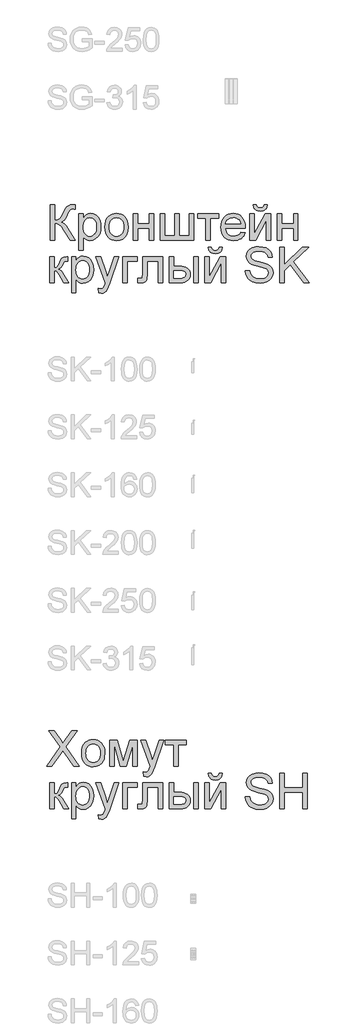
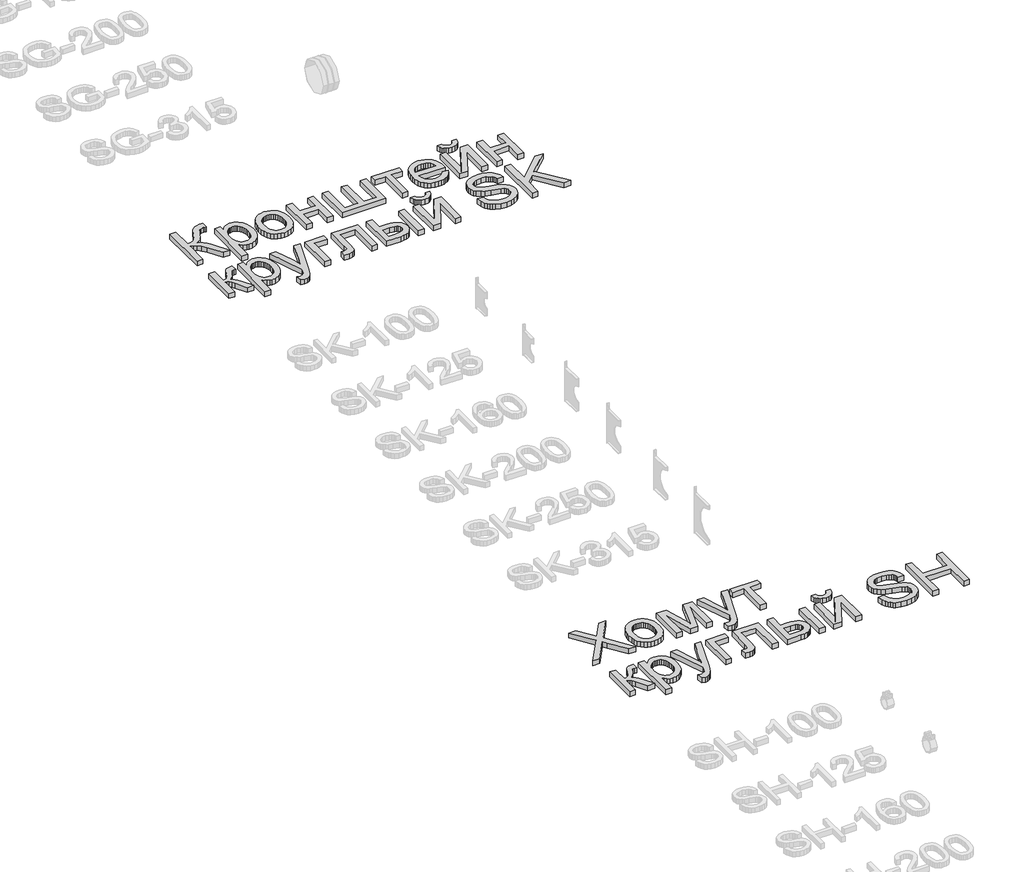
# One storey, part 6 of 31: 2 proxies.
"""IFC4 building model written with IfcOpenShell, lengths in millimetres."""

import ifcopenshell
import ifcopenshell.guid

model = None  # the IFC model being written
_history = None  # IfcOwnerHistory: only IFC2X3 demands one
_inside = {}  # id of a spatial element -> (the spatial element, [elements in it])
_under = {}  # id of a project, library or spatial element -> (it, [spatial elements below it])
_declared = {}  # id of a project -> (the project, [libraries it declares])
_typed = {}  # id of a type object -> (the type object, [elements of that type])
_made_of = {}  # id of a material, layer set ... -> (it, [elements and type objects made of it])


def new_model(schema):
    """Start an empty IFC model of exactly this schema.

    Asked for "IFC4X3", IfcOpenShell would pick the latest addendum, in which some entities
    have other attributes; the version numbers below select the first issue.
    IFC2X3 requires an IfcOwnerHistory on every rooted entity: one is made here for all.
    """
    global model, _history
    if schema == "IFC4X3":
        model = ifcopenshell.file(schema_version=(4, 3, 0, 0))
    else:
        model = ifcopenshell.file(schema=schema)
    _inside.clear()
    _under.clear()
    _declared.clear()
    _typed.clear()
    _made_of.clear()
    _history = None
    if model.schema == "IFC2X3":
        org = make("IfcOrganization", Name="unknown")
        user = make(
            "IfcPersonAndOrganization",
            ThePerson=make("IfcPerson", FamilyName="unknown"),
            TheOrganization=org,
        )
        app = make(
            "IfcApplication",
            ApplicationDeveloper=org,
            Version="unknown",
            ApplicationFullName="unknown",
            ApplicationIdentifier="unknown",
        )
        _history = make(
            "IfcOwnerHistory",
            OwningUser=user,
            OwningApplication=app,
            ChangeAction="ADDED",
            CreationDate=0,
        )
    return model


def make(cls, **values):
    """One entity of the class cls with the attributes given. An attribute that is None is left unset."""
    return model.create_entity(
        cls, **{name: value for name, value in values.items() if value is not None}
    )


def rooted(cls, **values):
    """An entity with a GlobalId (a new one), such as an element, a storey or a relation."""
    return make(cls, GlobalId=ifcopenshell.guid.new(), OwnerHistory=_history, **values)


def si_unit(unit_type, name, prefix=None):
    """IfcSIUnit, for example si_unit("LENGTHUNIT", "METRE", prefix="MILLI")."""
    return make("IfcSIUnit", UnitType=unit_type, Prefix=prefix, Name=name)


def assignment(units):
    """IfcUnitAssignment: the units of a project."""
    return None if units is None else make("IfcUnitAssignment", Units=units)


def point(xyz):
    """IfcCartesianPoint."""
    return None if xyz is None else make("IfcCartesianPoint", Coordinates=xyz)


def direction(xyz):
    """IfcDirection."""
    return None if xyz is None else make("IfcDirection", DirectionRatios=xyz)


def frame(location, z_axis=None, x_axis=None):
    """IfcAxis2Placement3D, a coordinate frame: its origin and axes. An axis left out is left unset."""
    return make(
        "IfcAxis2Placement3D",
        Location=point(location),
        Axis=direction(z_axis),
        RefDirection=direction(x_axis),
    )


def origin():
    """The frame at (0, 0, 0) with its axes left unset."""
    return frame((0.0, 0.0, 0.0))


def origin_with_axes():
    """The frame at (0, 0, 0) with the z axis (0, 0, 1) and the x axis (1, 0, 0) written out."""
    return frame((0.0, 0.0, 0.0), z_axis=(0.0, 0.0, 1.0), x_axis=(1.0, 0.0, 0.0))


def place(relative_to, where):
    """IfcLocalPlacement: puts the frame where relative to a parent placement (None: the world)."""
    return make(
        "IfcLocalPlacement", PlacementRelTo=relative_to, RelativePlacement=where
    )


def context(
    kind, dimensions, precision=None, world=None, true_north=None, identifier=None
):
    """IfcGeometricRepresentationContext, for example the 3D "Model" context."""
    return make(
        "IfcGeometricRepresentationContext",
        ContextIdentifier=identifier,
        ContextType=kind,
        CoordinateSpaceDimension=dimensions,
        Precision=precision,
        WorldCoordinateSystem=world,
        TrueNorth=true_north,
    )


def project(units=None, contexts=None):
    """IfcProject with its units and contexts."""
    return rooted(
        "IfcProject",
        Name="project",
        RepresentationContexts=contexts,
        UnitsInContext=assignment(units),
    )


def spatial(cls, under=None, at=None, **own):
    """A site, building, storey or space (cls), placed at a placement, below another one or the project."""
    s = rooted(cls, ObjectPlacement=at, **own)
    if under is not None:
        _under.setdefault(under.id(), (under, []))[1].append(s)
    return s


def polyline(points):
    """IfcPolyline through the points."""
    return make("IfcPolyline", Points=[point(p) for p in points])


def outline(outer, holes=None, kind="AREA"):
    """IfcArbitraryClosedProfileDef: a profile drawn as a closed curve; with holes, ...WithVoids."""
    if holes is None:
        return make("IfcArbitraryClosedProfileDef", ProfileType=kind, OuterCurve=outer)
    return make(
        "IfcArbitraryProfileDefWithVoids",
        ProfileType=kind,
        OuterCurve=outer,
        InnerCurves=holes,
    )


def extrude(swept, where, along, depth):
    """IfcExtrudedAreaSolid: the profile swept, set in the frame where, extruded along a direction by depth."""
    return make(
        "IfcExtrudedAreaSolid",
        SweptArea=swept,
        Position=where,
        ExtrudedDirection=direction(along),
        Depth=depth,
    )


def shape(context_of_items, identifier, shape_type, items):
    """IfcShapeRepresentation: the items that make up one representation, for example the "Body"."""
    return make(
        "IfcShapeRepresentation",
        ContextOfItems=context_of_items,
        RepresentationIdentifier=identifier,
        RepresentationType=shape_type,
        Items=items,
    )


def made_of(thing, what):
    """Note that an element or type object is made of a material, layer set ...; save() writes the relation."""
    if what is not None:
        _made_of.setdefault(what.id(), (what, []))[1].append(thing)
    return thing


def element(
    cls,
    number,
    at=None,
    inside=None,
    cuts=None,
    type_object=None,
    material=None,
    context=None,
    identifier="Body",
    shape_type=None,
    held_by="IfcProductDefinitionShape",
    body=None,
    shapes=None,
    **own,
):
    """One element of the class cls, such as IfcWall. Its Tag is "e" and its number.

    at: its placement. inside: the storey or other place that contains it. cuts: it is an
    opening in that element (IfcRelVoidsElement). A single representation is given by context,
    identifier, shape_type and body (its items); several are given by shapes. held_by: the class
    of the entity that holds the representations. save() writes the other relations.
    """
    e = rooted(cls, Tag="e%d" % number, ObjectPlacement=at, **own)
    if body is not None:
        shapes = [shape(context, identifier, shape_type, body)]
    if shapes is not None:
        e.Representation = make(held_by, Representations=shapes)
    if inside is not None:
        _inside.setdefault(inside.id(), (inside, []))[1].append(e)
    if cuts is not None:
        rooted(
            "IfcRelVoidsElement", RelatingBuildingElement=cuts, RelatedOpeningElement=e
        )
    if type_object is not None:
        _typed.setdefault(type_object.id(), (type_object, []))[1].append(e)
    return made_of(e, material)


def aggregate(whole, parts):
    """IfcRelAggregates: a whole, such as a stair, and the parts it consists of."""
    return rooted("IfcRelAggregates", RelatingObject=whole, RelatedObjects=parts)


def save(model, path):
    """Write the relations noted so far, then the file.

    IfcRelAggregates (storeys below a building ...), IfcRelContainedInSpatialStructure (elements
    in a storey), IfcRelDefinesByType, IfcRelAssociatesMaterial and IfcRelDeclares: one each for
    every whole, place, type object, material and project.
    """
    for whole, parts in _under.values():
        aggregate(whole, parts)
    for where, things in _inside.values():
        rooted(
            "IfcRelContainedInSpatialStructure",
            RelatedElements=things,
            RelatingStructure=where,
        )
    for kind, things in _typed.values():
        rooted("IfcRelDefinesByType", RelatedObjects=things, RelatingType=kind)
    for what, things in _made_of.values():
        rooted("IfcRelAssociatesMaterial", RelatedObjects=things, RelatingMaterial=what)
    for by, libraries in _declared.values():
        rooted("IfcRelDeclares", RelatingContext=by, RelatedDefinitions=libraries)
    model.write(path)


model = new_model("IFC4")

# Units and contexts
model_context = context("Model", 3, world=origin())
ifc_project = project(units=[si_unit("LENGTHUNIT", "METRE", prefix="MILLI")], contexts=[model_context])

# Site, building, storey
site = spatial("IfcSite", under=ifc_project)
building = spatial("IfcBuilding", under=site)
storey = spatial("IfcBuildingStorey", under=building, Name="Этаж 01", Elevation=0.0)

# Proxies
placement = place(None, origin())
element("IfcBuildingElementProxy", 1, Name="450 мм Arial", ObjectType="450 мм Arial", at=placement, inside=storey, context=model_context, shape_type="SweptSolid", body=[
    extrude(outline(polyline([(10419.0852891, -36273.162397), (10475.292307, -36273.162397), (10475.292307, -36469.8869595), (10513.3445678, -36466.1681847), (10538.1409744, -36455.0118601), (10558.1894249, -36428.7608774), (10581.9978174, -36379.7581282), (10613.0104787, -36316.9094607), (10627.9679126, -36299.8799419), (10648.1398648, -36285.7870202), (10672.0854815, -36276.3185528), (10698.3639091, -36273.162397), (10735.2497645, -36273.821073), (10735.2497645, -36330.0280909), (10722.8447001, -36329.6987529), (10710.4396356, -36329.3694149), (10684.6963823, -36332.7451294), (10666.5279029, -36342.8722727), (10650.8843481, -36364.1420182), (10633.154986, -36400.7259805), (10611.4049559, -36446.2844032), (10593.3599783, -36471.2043115), (10575.5620041, -36484.3229417), (10554.5529845, -36494.4775298), (10576.3235982, -36503.740161), (10597.9432654, -36519.8914451), (10619.4119859, -36542.9313824), (10640.7297599, -36572.8599727), (10735.2497645, -36722.8185399), (10670.0408415, -36722.8185399), (10590.121488, -36596.133191), (10559.2597733, -36555.5011159), (10533.8595805, -36529.9911437), (10507.8830461, -36516.5294531), (10475.292307, -36512.0422229), (10475.292307, -36722.8185399), (10419.0852891, -36722.8185399), (10419.0852891, -36273.162397)])), origin_with_axes(), (0.0, 0.0, 1.0), 50.0),
    extrude(outline(polyline([(10777.4050279, -36849.28433), (10777.4050279, -36392.60231), (10833.6120458, -36392.60231), (10833.6120458, -36447.7115345), (10851.9451942, -36420.5274275), (10872.4739292, -36401.1102082), (10896.4058235, -36389.4598766), (10924.9484498, -36385.5764328), (10962.9595434, -36391.0105097), (10996.1952361, -36407.3127404), (11023.2558414, -36433.4951111), (11042.7416728, -36468.5696076), (11054.5155061, -36509.9838605), (11058.4401172, -36555.1855003), (11054.0077767, -36603.2551252), (11040.7107551, -36646.247456), (11018.9744474, -36681.9806285), (10989.2242485, -36708.2727784), (10954.575147, -36724.4515074), (10918.1421312, -36729.8444171), (10892.302821, -36726.2354216), (10869.2354389, -36715.408435), (10849.4888816, -36699.065037), (10833.6120458, -36678.9068072), (10833.6120458, -36849.28433), (10777.4050279, -36849.28433)]), holes=[polyline([(10833.6120458, -36560.3451289), (10835.1318034, -36587.433179), (10839.6910763, -36610.7338422), (10847.2898644, -36630.2471184), (10857.9281678, -36645.9730076), (10870.7346129, -36658.076179), (10884.8378265, -36666.7213013), (10900.2378083, -36671.9083748), (10916.9345586, -36673.6373992), (10933.8714511, -36671.8466239), (10949.5527425, -36666.4742979), (10963.9784328, -36657.5204211), (10977.148522, -36644.9849937), (10988.1230246, -36628.6896241), (10995.961955, -36608.455921), (11000.6653133, -36584.2838844), (11002.2330993, -36556.1735143), (11000.7030499, -36529.3187453), (10996.1129016, -36506.0592493), (10988.4626544, -36486.3950265), (10977.7523084, -36470.3260769), (10964.9149878, -36457.8386779), (10950.8838169, -36448.9191072), (10935.6587959, -36443.5673647), (10919.2399245, -36441.7834506), (10902.8725123, -36443.6805747), (10887.4725304, -36449.3719469), (10873.0399789, -36458.8575673), (10859.5748577, -36472.1374358), (10848.2161275, -36489.0331611), (10840.1027488, -36509.3663517), (10835.2347215, -36533.1370076), (10833.6120458, -36560.3451289)])]), origin_with_axes(), (0.0, 0.0, 1.0), 50.0),
    extrude(outline(polyline([(11107.6212578, -36557.7104249), (11110.6607731, -36514.944514), (11119.7793188, -36478.0929646), (11134.976895, -36447.1557767), (11156.2535018, -36422.1329502), (11177.6741939, -36406.1394738), (11201.3179175, -36394.7155621), (11227.1846725, -36387.8612151), (11255.274459, -36385.5764328), (11286.2836896, -36388.3586527), (11314.3220171, -36396.7053125), (11339.3894414, -36410.6164122), (11361.4859625, -36430.0919518), (11379.5206483, -36454.4732552), (11392.4025668, -36483.1016466), (11400.1317179, -36515.9771258), (11402.7081015, -36553.099693), (11398.1522593, -36609.8830523), (11392.4574564, -36633.1905767), (11384.4847325, -36653.1086642), (11362.1034712, -36685.4798447), (11331.4064256, -36709.6999097), (11294.945965, -36724.8082903), (11255.274459, -36729.8444171), (11223.8123887, -36727.072489), (11195.5133353, -36718.7567046), (11170.3772989, -36704.897064), (11148.4042796, -36685.4935671), (11130.5617075, -36660.8755519), (11117.8170133, -36631.3723565), (11110.1701967, -36596.9839809), (11107.6212578, -36557.7104249)]), holes=[polyline([(11163.8282757, -36557.6006456), (11165.454382, -36584.8636565), (11170.3327011, -36608.4696434), (11178.4632328, -36628.4186064), (11189.8459773, -36644.7105453), (11203.6918955, -36657.3660439), (11219.2119485, -36666.4056858), (11236.4061364, -36671.8294709), (11255.274459, -36673.6373992), (11274.0467247, -36671.8191791), (11291.1723005, -36666.3645185), (11306.6511863, -36657.2734176), (11320.4833821, -36644.5458763), (11331.8661265, -36628.092699), (11339.9966583, -36607.8246899), (11344.8749773, -36583.741849), (11346.5010837, -36555.8441763), (11344.8646855, -36529.4456776), (11339.955491, -36506.4571994), (11331.7735002, -36486.8787417), (11320.3187131, -36470.7103045), (11306.4350582, -36458.0548059), (11290.9664642, -36449.0151641), (11273.9129312, -36443.591379), (11255.274459, -36441.7834506), (11236.4061364, -36443.5845178), (11219.2119485, -36448.9877193), (11203.6918955, -36457.9930551), (11189.8459773, -36470.6005252), (11178.4632328, -36486.8444357), (11170.3327011, -36506.7590926), (11165.454382, -36530.3444959), (11163.8282757, -36557.6006456)])]), origin_with_axes(), (0.0, 0.0, 1.0), 50.0),
    extrude(outline(polyline([(11465.9409966, -36392.60231), (11522.1480145, -36392.60231), (11522.1480145, -36519.0681002), (11669.6914363, -36519.0681002), (11669.6914363, -36392.60231), (11725.8984542, -36392.60231), (11725.8984542, -36722.8185399), (11669.6914363, -36722.8185399), (11669.6914363, -36575.275118), (11522.1480145, -36575.275118), (11522.1480145, -36722.8185399), (11465.9409966, -36722.8185399), (11465.9409966, -36392.60231)])), origin_with_axes(), (0.0, 0.0, 1.0), 50.0),
    extrude(outline(polyline([(11810.208981, -36392.60231), (11866.4159988, -36392.60231), (11866.4159988, -36666.611522), (11992.881789, -36666.611522), (11992.881789, -36392.60231), (12049.0888068, -36392.60231), (12049.0888068, -36666.611522), (12175.554597, -36666.611522), (12175.554597, -36392.60231), (12231.7616149, -36392.60231), (12231.7616149, -36722.8185399), (11810.208981, -36722.8185399), (11810.208981, -36392.60231)])), origin_with_axes(), (0.0, 0.0, 1.0), 50.0),
    extrude(outline(polyline([(12280.9427555, -36392.60231), (12547.9260903, -36392.60231), (12547.9260903, -36448.8093278), (12442.5379318, -36448.8093278), (12442.5379318, -36722.8185399), (12386.330914, -36722.8185399), (12386.330914, -36448.8093278), (12280.9427555, -36448.8093278), (12280.9427555, -36392.60231)])), origin_with_axes(), (0.0, 0.0, 1.0), 50.0),
    extrude(outline(polyline([(12828.3025036, -36624.4562586), (12883.4117281, -36631.4821359), (12874.9621501, -36653.5546427), (12863.5553915, -36673.0061681), (12849.191452, -36689.8367119), (12831.8703318, -36704.0462741), (12811.7704223, -36715.3329617), (12789.0701149, -36723.3948814), (12763.7694095, -36728.2320332), (12735.8683062, -36729.8444171), (12700.9927848, -36727.0621972), (12669.9183727, -36718.7155373), (12642.64507, -36704.8044376), (12619.1728766, -36685.3288981), (12600.2976927, -36660.8309541), (12586.8154186, -36631.8526411), (12578.726054, -36598.3939591), (12576.0295992, -36560.4549082), (12578.7534989, -36521.2293807), (12586.9251979, -36486.6557525), (12600.5446962, -36456.7340233), (12619.6119939, -36431.4641934), (12643.0224364, -36411.3882981), (12669.6713692, -36397.0483729), (12699.5587923, -36388.4444178), (12732.6847056, -36385.5764328), (12764.7437011, -36388.4375566), (12793.7357365, -36397.0209281), (12819.6608118, -36411.3265473), (12842.518927, -36431.3544141), (12861.1779828, -36456.5693544), (12874.5058798, -36486.4361938), (12882.502618, -36520.9549324), (12885.1681974, -36560.1255702), (12884.8388594, -36575.275118), (12632.2366171, -36575.275118), (12635.4922604, -36597.7044077), (12641.9658103, -36617.3480469), (12651.657267, -36634.2060355), (12664.5666303, -36648.2783736), (12679.9803346, -36659.3729473), (12697.1848142, -36667.2976428), (12716.1800692, -36672.0524601), (12736.9660995, -36673.6373992), (12766.8809674, -36670.7008021), (12792.0753241, -36661.8910108), (12812.5491694, -36646.6591285), (12828.3025036, -36624.4562586)]), holes=[polyline([(12632.2366171, -36519.0681002), (12828.9611795, -36519.0681002), (12821.3589608, -36489.3727909), (12806.4564165, -36468.1304902), (12791.1284773, -36456.6036604), (12773.687286, -36448.3702105), (12754.1328425, -36443.4301406), (12732.4651469, -36441.7834506), (12694.5775551, -36447.0391361), (12663.2492783, -36462.8061926), (12650.7927547, -36474.2060901), (12641.4718033, -36487.3830405), (12635.2864241, -36502.3370439), (12632.2366171, -36519.0681002)])]), origin_with_axes(), (0.0, 0.0, 1.0), 50.0),
    extrude(outline(polyline([(13124.0480233, -36273.162397), (13166.2032867, -36273.162397), (13157.1327694, -36309.1562954), (13149.1703372, -36323.6025694), (13138.9231227, -36335.6817265), (13126.5969621, -36345.2153753), (13112.3976917, -36352.0251245), (13078.3798213, -36357.4729238), (13041.466521, -36352.0662917), (13026.1179981, -36345.3080016), (13012.8415602, -36335.8463955), (13001.829321, -36323.8186974), (12993.2733943, -36309.3621317), (12983.5304786, -36273.162397), (13025.685742, -36273.162397), (13031.6138259, -36291.6739369), (13041.4939658, -36304.8337343), (13055.3810513, -36312.6966789), (13073.329972, -36315.3176604), (13093.5842587, -36312.7790134), (13108.2397995, -36305.1630723), (13118.1199394, -36292.0856094), (13124.0480233, -36273.162397)])), origin_with_axes(), (0.0, 0.0, 1.0), 50.0),
    extrude(outline(polyline([(12941.3752152, -36392.60231), (12997.5822331, -36392.60231), (12997.5822331, -36644.436097), (13135.6846324, -36392.60231), (13208.35855, -36392.60231), (13208.35855, -36722.8185399), (13152.1515322, -36722.8185399), (13152.1515322, -36472.5216635), (13014.9273675, -36722.8185399), (12941.3752152, -36722.8185399), (12941.3752152, -36392.60231)])), origin_with_axes(), (0.0, 0.0, 1.0), 50.0),
    extrude(outline(polyline([(13292.6690768, -36392.60231), (13348.8760947, -36392.60231), (13348.8760947, -36519.0681002), (13496.4195165, -36519.0681002), (13496.4195165, -36392.60231), (13552.6265344, -36392.60231), (13552.6265344, -36722.8185399), (13496.4195165, -36722.8185399), (13496.4195165, -36575.275118), (13348.8760947, -36575.275118), (13348.8760947, -36722.8185399), (13292.6690768, -36722.8185399), (13292.6690768, -36392.60231)])), origin_with_axes(), (0.0, 0.0, 1.0), 50.0),
    extrude(outline(polyline([(10412.0594119, -36933.0343932), (10468.2664298, -36933.0343932), (10468.2664298, -37073.5519378), (10491.1279756, -37071.0270132), (10505.9207405, -37063.4522393), (10519.0119258, -37043.6919596), (10536.7687328, -37004.6105175), (10551.0812131, -36972.6510095), (10562.4022067, -36953.8375765), (10572.9684674, -36943.5869314), (10585.0167491, -36937.3157871), (10626.1291088, -36933.0343932), (10636.8874833, -36933.0343932), (10636.8874833, -36989.570749), (10621.7379355, -36989.241411), (10604.1732424, -36990.723432), (10594.2931026, -36995.1694949), (10574.9719402, -37032.1651297), (10563.10205, -37056.8243121), (10552.3025082, -37072.1796961), (10539.2250453, -37082.4303412), (10520.5213917, -37091.7753069), (10538.3330882, -37099.68628), (10555.9801158, -37113.6488387), (10573.4624744, -37133.6629831), (10590.780164, -37159.7287132), (10650.9392378, -37263.250623), (10587.0476667, -37263.250623), (10528.0961656, -37161.9242998), (10512.1781624, -37134.9597515), (10498.455746, -37119.0554708), (10484.5961053, -37111.2748607), (10468.2664298, -37108.681324), (10468.2664298, -37263.250623), (10412.0594119, -37263.250623), (10412.0594119, -36933.0343932)])), origin_with_axes(), (0.0, 0.0, 1.0), 50.0),
    extrude(outline(polyline([(10686.0686239, -37389.7164132), (10686.0686239, -36933.0343932), (10742.2756418, -36933.0343932), (10742.2756418, -36988.1436177), (10760.6087902, -36960.9595107), (10781.1375252, -36941.5422914), (10805.0694195, -36929.8919598), (10833.6120458, -36926.0085159), (10871.6231394, -36931.4425929), (10904.8588321, -36947.7448236), (10931.9194374, -36973.9271942), (10951.4052687, -37009.0016907), (10963.1791021, -37050.4159436), (10967.1037132, -37095.6175835), (10962.6713727, -37143.6872084), (10949.3743511, -37186.6795392), (10927.6380434, -37222.4127116), (10897.8878445, -37248.7048616), (10863.2387429, -37264.8835906), (10826.8057272, -37270.2765003), (10800.966417, -37266.6675047), (10777.8990349, -37255.8405182), (10758.1524776, -37239.4971201), (10742.2756418, -37219.3388903), (10742.2756418, -37389.7164132), (10686.0686239, -37389.7164132)]), holes=[polyline([(10742.2756418, -37100.7772121), (10743.7953994, -37127.8652622), (10748.3546723, -37151.1659253), (10755.9534604, -37170.6792016), (10766.5917638, -37186.4050908), (10779.3982089, -37198.5082622), (10793.5014225, -37207.1533845), (10808.9014043, -37212.3404579), (10825.5981546, -37214.0694824), (10842.5350471, -37212.2787071), (10858.2163385, -37206.906381), (10872.6420288, -37197.9525043), (10885.812118, -37185.4170768), (10896.7866206, -37169.1217073), (10904.625551, -37148.8880042), (10909.3289093, -37124.7159676), (10910.8966953, -37096.6055975), (10909.3666459, -37069.7508284), (10904.7764976, -37046.4913325), (10897.1262504, -37026.8271097), (10886.4159044, -37010.75816), (10873.5785838, -36998.2707611), (10859.5474129, -36989.3511903), (10844.3223918, -36983.9994479), (10827.9035205, -36982.2155338), (10811.5361083, -36984.1126579), (10796.1361264, -36989.8040301), (10781.7035749, -36999.2896505), (10768.2384537, -37012.569519), (10756.8797235, -37029.4652443), (10748.7663448, -37049.7984349), (10743.8983175, -37073.5690908), (10742.2756418, -37100.7772121)])]), origin_with_axes(), (0.0, 0.0, 1.0), 50.0),
    extrude(outline(polyline([(11030.3366083, -37389.7164132), (11023.310731, -37335.5952027), (11051.8533573, -37340.5352726), (11066.8656809, -37338.9846395), (11078.5297349, -37334.3327403), (11094.8868553, -37317.0424956), (11110.2559618, -37275.6556875), (11114.6471351, -37262.0430504), (10995.2072221, -36933.0343932), (11054.4880613, -36933.0343932), (11117.8307357, -37116.3658772), (11139.8963814, -37189.6984708), (11161.962027, -37124.928665), (11227.0611708, -36933.0343932), (11285.9028926, -36933.0343932), (11170.9639322, -37271.1547349), (11141.103954, -37344.4873285), (11125.8171821, -37367.897771), (11108.4994925, -37384.1176673), (11088.3824299, -37393.5861347), (11064.6975391, -37396.7422904), (11030.3366083, -37389.7164132)])), origin_with_axes(), (0.0, 0.0, 1.0), 50.0),
    extrude(outline(polyline([(11332.4493292, -36933.0343932), (11515.1221372, -36933.0343932), (11515.1221372, -36989.241411), (11388.6563471, -36989.241411), (11388.6563471, -37263.250623), (11332.4493292, -37263.250623), (11332.4493292, -36933.0343932)])), origin_with_axes(), (0.0, 0.0, 1.0), 50.0),
    extrude(outline(polyline([(11585.3809096, -36933.0343932), (11838.3124899, -36933.0343932), (11838.3124899, -37262.9212851), (11782.105472, -37262.9212851), (11782.105472, -36989.241411), (11641.5879274, -36989.241411), (11641.5879274, -37146.7747521), (11637.8005405, -37219.4486697), (11630.7060512, -37235.901847), (11616.9973571, -37250.1319929), (11596.1941737, -37259.9709655), (11567.8162165, -37263.250623), (11522.1480145, -37260.3963604), (11522.1480145, -37207.0436052), (11547.2874814, -37207.0436052), (11572.7013967, -37203.5855562), (11579.0548756, -37199.1120485), (11582.8559849, -37192.6076231), (11585.3809096, -37143.5911514), (11585.3809096, -36933.0343932)])), origin_with_axes(), (0.0, 0.0, 1.0), 50.0),
    extrude(outline(polyline([(12231.7616149, -36933.0343932), (12287.9686327, -36933.0343932), (12287.9686327, -37263.250623), (12231.7616149, -37263.250623), (12231.7616149, -36933.0343932)])), origin_with_axes(), (0.0, 0.0, 1.0), 50.0),
    extrude(outline(polyline([(11922.6230167, -36933.0343932), (11978.8300345, -36933.0343932), (11978.8300345, -37052.4743061), (12048.3203515, -37052.4743061), (12080.2970125, -37054.234206), (12108.3833684, -37059.5139057), (12132.5794192, -37068.3134053), (12152.885165, -37080.6327047), (12168.9506841, -37096.046409), (12180.4260549, -37114.1291233), (12187.3112773, -37134.8808476), (12189.6063515, -37158.3015819), (12187.6817826, -37179.1973916), (12181.9080758, -37198.5219846), (12172.2852313, -37216.2753609), (12158.8132489, -37232.4575205), (12141.1147623, -37245.9295029), (12118.8124049, -37255.5523474), (12091.9061768, -37261.3260541), (12060.396078, -37263.250623), (11922.6230167, -37263.250623), (11922.6230167, -36933.0343932)]), holes=[polyline([(11978.8300345, -37207.0436052), (12036.573963, -37207.0436052), (12081.3364855, -37204.0932857), (12111.1141293, -37195.242327), (12127.8280325, -37180.1339465), (12133.3993336, -37158.4113612), (12129.2688863, -37140.050768), (12116.8775442, -37123.8308717), (12106.1226003, -37117.2029446), (12090.379558, -37112.4687109), (12043.9291783, -37108.681324), (11978.8300345, -37108.681324), (11978.8300345, -37207.0436052)])]), origin_with_axes(), (0.0, 0.0, 1.0), 50.0),
    extrude(outline(polyline([(12554.9519675, -36813.5944802), (12597.1072309, -36813.5944802), (12588.0367136, -36849.5883786), (12580.0742815, -36864.0346526), (12569.827067, -36876.1138097), (12557.5009064, -36885.6474585), (12543.3016359, -36892.4572077), (12509.2837655, -36897.905007), (12472.3704652, -36892.4983749), (12457.0219424, -36885.7400848), (12443.7455045, -36876.2784787), (12432.7332652, -36864.2507806), (12424.1773386, -36849.7942149), (12414.4344229, -36813.5944802), (12456.5896863, -36813.5944802), (12462.5177702, -36832.10602), (12472.39791, -36845.2658174), (12486.2849955, -36853.1287621), (12504.2339162, -36855.7497436), (12524.488203, -36853.2110966), (12539.1437437, -36845.5951554), (12549.0238836, -36832.5176925), (12554.9519675, -36813.5944802)])), origin_with_axes(), (0.0, 0.0, 1.0), 50.0),
    extrude(outline(polyline([(12372.2791595, -36933.0343932), (12428.4861773, -36933.0343932), (12428.4861773, -37184.8681802), (12566.5885767, -36933.0343932), (12639.2624943, -36933.0343932), (12639.2624943, -37263.250623), (12583.0554764, -37263.250623), (12583.0554764, -37012.9537467), (12445.8313118, -37263.250623), (12372.2791595, -37263.250623), (12372.2791595, -36933.0343932)])), origin_with_axes(), (0.0, 0.0, 1.0), 50.0),
    extrude(outline(polyline([(12885.1681974, -37108.681324), (12941.3752152, -37108.681324), (12947.824751, -37139.8723766), (12959.488805, -37164.9432315), (12977.6847292, -37184.8407353), (13003.7298757, -37200.511735), (13035.5658819, -37210.6800456), (13071.1343854, -37214.0694824), (13102.4489397, -37211.5033905), (13129.8663278, -37203.8051149), (13152.0829201, -37191.6196091), (13167.795087, -37175.5918266), (13177.1400526, -37157.1900662), (13180.2550411, -37137.8826262), (13177.9222303, -37119.0691932), (13170.9237979, -37102.8081297), (13156.7073745, -37088.9347667), (13132.7205905, -37077.2844351), (13050.8800987, -37055.8225757), (12997.1568382, -37041.6198747), (12962.7821849, -37028.1032945), (12934.8021778, -37009.1938046), (12914.973286, -36986.2773691), (12903.1582854, -36959.8479949), (12899.2199519, -36930.3996892), (12904.0914097, -36897.4796121), (12918.7057832, -36866.7825665), (12942.6788448, -36840.7648648), (12975.6263668, -36821.8828198), (13015.174371, -36810.3971572), (13058.9488795, -36806.568603), (13106.3735509, -36810.5755486), (13147.8701383, -36822.5963854), (13181.9566208, -36842.38411), (13207.1509774, -36869.6917187), (13223.0964253, -36902.8176321), (13229.4361817, -36940.0602704), (13173.2291639, -36940.0602704), (13169.4692218, -36922.1250721), (13162.9099067, -36906.5226845), (13153.5512187, -36893.2531078), (13141.3931577, -36882.3163419), (13126.2093039, -36873.7672764), (13107.7732373, -36867.6608011), (13061.1444662, -36862.7756208), (13013.4179017, -36867.6059114), (12995.173949, -36873.6437747), (12980.676216, -36882.0967832), (12961.7392813, -36903.4214184), (12957.0050476, -36915.5863406), (12955.4269697, -36928.7529992), (12959.9004775, -36950.3520827), (12973.3210008, -36967.724662), (13005.0472277, -36983.2584374), (13065.0965221, -36999.1215509), (13127.0669549, -37014.1887642), (13164.5565967, -37027.3348391), (13196.5984391, -37047.72635), (13218.9522556, -37072.8932618), (13232.0846081, -37102.5611262), (13236.462059, -37136.4554949), (13231.4259321, -37171.1045965), (13216.3175516, -37203.6953356), (13191.7544261, -37231.7439548), (13158.3540644, -37252.7666969), (13118.1885514, -37265.8990494), (13073.329972, -37270.2765003), (13018.2619147, -37265.555989), (12972.9367731, -37251.3944552), (12953.7974328, -37240.7595825), (12936.8330954, -37227.7370092), (12922.043761, -37212.3267355), (12909.4294297, -37194.5287614), (12891.8372918, -37154.0750776), (12885.1681974, -37108.681324)])), origin_with_axes(), (0.0, 0.0, 1.0), 50.0),
    extrude(outline(polyline([(13320.7725857, -37263.250623), (13320.7725857, -36813.5944802), (13376.9796036, -36813.5944802), (13376.9796036, -37033.7020404), (13607.5162003, -36813.5944802), (13686.1182018, -36813.5944802), (13492.5772399, -36998.4628749), (13693.144079, -37263.250623), (13624.4222173, -37263.250623), (13452.7273425, -37036.4465237), (13376.9796036, -37108.681324), (13376.9796036, -37263.250623), (13320.7725857, -37263.250623)])), origin_with_axes(), (0.0, 0.0, 1.0), 50.0),
])
element("IfcBuildingElementProxy", 2, Name="450 мм Arial", ObjectType="450 мм Arial", at=placement, inside=storey, context=model_context, shape_type="SweptSolid", body=[
    extrude(outline(polyline([(10369.9041485, -43382.8185399), (10543.2457133, -43137.7910714), (10398.0076574, -42933.162397), (10465.4121671, -42933.162397), (10547.1977693, -43048.320916), (10574.7523815, -43093.2206627), (10607.0275051, -43047.5524607), (10687.9348726, -42933.162397), (10756.3273962, -42933.162397), (10611.0893403, -43138.4497474), (10784.4309052, -43382.8185399), (10717.0263955, -43382.8185399), (10601.5385385, -43219.9060116), (10577.4968648, -43186.0939774), (10551.0400459, -43223.1993915), (10438.2966722, -43382.8185399), (10369.9041485, -43382.8185399)])), origin_with_axes(), (0.0, 0.0, 1.0), 50.0),
    extrude(outline(polyline([(10812.5344141, -43217.7104249), (10815.5739293, -43174.944514), (10824.6924751, -43138.0929646), (10839.8900513, -43107.1557767), (10861.1666581, -43082.1329502), (10882.5873502, -43066.1394738), (10906.2310737, -43054.7155621), (10932.0978288, -43047.8612151), (10960.1876153, -43045.5764328), (10991.1968459, -43048.3586527), (11019.2351734, -43056.7053125), (11044.3025976, -43070.6164122), (11066.3991188, -43090.0919518), (11084.4338046, -43114.4732552), (11097.3157231, -43143.1016466), (11105.0448741, -43175.9771258), (11107.6212578, -43213.099693), (11103.0654156, -43269.8830523), (11097.3706127, -43293.1905767), (11089.3978888, -43313.1086642), (11067.0166275, -43345.4798447), (11036.3195819, -43369.6999097), (10999.8591213, -43384.8082903), (10960.1876153, -43389.8444171), (10928.7255449, -43387.072489), (10900.4264916, -43378.7567046), (10875.2904552, -43364.897064), (10853.3174358, -43345.4935671), (10835.4748638, -43320.8755519), (10822.7301695, -43291.3723565), (10815.083353, -43256.9839809), (10812.5344141, -43217.7104249)]), holes=[polyline([(10868.7414319, -43217.6006456), (10870.3675383, -43244.8636565), (10875.2458574, -43268.4696434), (10883.3763891, -43288.4186064), (10894.7591336, -43304.7105453), (10908.6050518, -43317.3660439), (10924.1251048, -43326.4056858), (10941.3192926, -43331.8294709), (10960.1876153, -43333.6373992), (10978.959881, -43331.8191791), (10996.0854568, -43326.3645185), (11011.5643425, -43317.2734176), (11025.3965383, -43304.5458763), (11036.7792828, -43288.092699), (11044.9098146, -43267.8246899), (11049.7881336, -43243.741849), (11051.41424, -43215.8441763), (11049.7778418, -43189.4456776), (11044.8686473, -43166.4571994), (11036.6866565, -43146.8787417), (11025.2318693, -43130.7103045), (11011.3482145, -43118.0548059), (10995.8796205, -43109.0151641), (10978.8260875, -43103.591379), (10960.1876153, -43101.7834506), (10941.3192926, -43103.5845178), (10924.1251048, -43108.9877193), (10908.6050518, -43117.9930551), (10894.7591336, -43130.6005252), (10883.3763891, -43146.8444357), (10875.2458574, -43166.7590926), (10870.3675383, -43190.3444959), (10868.7414319, -43217.6006456)])]), origin_with_axes(), (0.0, 0.0, 1.0), 50.0),
    extrude(outline(polyline([(11170.8541529, -43052.60231), (11267.5697442, -43052.60231), (11342.1099104, -43316.9509408), (11422.4683813, -43052.60231), (11515.1221372, -43052.60231), (11515.1221372, -43382.8185399), (11458.9151194, -43382.8185399), (11458.9151194, -43116.9329984), (11378.1175312, -43382.8185399), (11304.3458203, -43382.8185399), (11227.0611708, -43104.1985959), (11227.0611708, -43382.8185399), (11170.8541529, -43382.8185399), (11170.8541529, -43052.60231)])), origin_with_axes(), (0.0, 0.0, 1.0), 50.0),
    extrude(outline(polyline([(11599.432664, -43509.28433), (11592.4067868, -43455.1631195), (11620.949413, -43460.1031894), (11635.9617367, -43458.5525564), (11647.6257907, -43453.9006572), (11663.9829111, -43436.6104124), (11679.3520175, -43395.2236044), (11683.7431908, -43381.6109672), (11564.3032779, -43052.60231), (11623.584117, -43052.60231), (11686.9267914, -43235.933794), (11708.9924371, -43309.2663876), (11731.0580828, -43244.4965819), (11796.1572265, -43052.60231), (11854.9989483, -43052.60231), (11740.059988, -43390.7226518), (11710.2000098, -43464.0552454), (11694.9132378, -43487.4656879), (11677.5955482, -43503.6855841), (11657.4784857, -43513.1540515), (11633.7935949, -43516.3102073), (11599.432664, -43509.28433)])), origin_with_axes(), (0.0, 0.0, 1.0), 50.0),
    extrude(outline(polyline([(11873.4418761, -43052.60231), (12140.4252109, -43052.60231), (12140.4252109, -43108.8093278), (12035.0370524, -43108.8093278), (12035.0370524, -43382.8185399), (11978.8300345, -43382.8185399), (11978.8300345, -43108.8093278), (11873.4418761, -43108.8093278), (11873.4418761, -43052.60231)])), origin_with_axes(), (0.0, 0.0, 1.0), 50.0),
    extrude(outline(polyline([(10412.0594119, -43593.0343932), (10468.2664298, -43593.0343932), (10468.2664298, -43733.5519378), (10491.1279756, -43731.0270132), (10505.9207405, -43723.4522393), (10519.0119258, -43703.6919596), (10536.7687328, -43664.6105175), (10551.0812131, -43632.6510095), (10562.4022067, -43613.8375765), (10572.9684674, -43603.5869314), (10585.0167491, -43597.3157871), (10626.1291088, -43593.0343932), (10636.8874833, -43593.0343932), (10636.8874833, -43649.570749), (10621.7379355, -43649.241411), (10604.1732424, -43650.723432), (10594.2931026, -43655.1694949), (10574.9719402, -43692.1651297), (10563.10205, -43716.8243121), (10552.3025082, -43732.1796961), (10539.2250453, -43742.4303412), (10520.5213917, -43751.7753069), (10538.3330882, -43759.68628), (10555.9801158, -43773.6488387), (10573.4624744, -43793.6629831), (10590.780164, -43819.7287132), (10650.9392378, -43923.250623), (10587.0476667, -43923.250623), (10528.0961656, -43821.9242998), (10512.1781624, -43794.9597515), (10498.455746, -43779.0554708), (10484.5961053, -43771.2748607), (10468.2664298, -43768.681324), (10468.2664298, -43923.250623), (10412.0594119, -43923.250623), (10412.0594119, -43593.0343932)])), origin_with_axes(), (0.0, 0.0, 1.0), 50.0),
    extrude(outline(polyline([(10686.0686239, -44049.7164132), (10686.0686239, -43593.0343932), (10742.2756418, -43593.0343932), (10742.2756418, -43648.1436177), (10760.6087902, -43620.9595107), (10781.1375252, -43601.5422914), (10805.0694195, -43589.8919598), (10833.6120458, -43586.0085159), (10871.6231394, -43591.4425929), (10904.8588321, -43607.7448236), (10931.9194374, -43633.9271942), (10951.4052687, -43669.0016907), (10963.1791021, -43710.4159436), (10967.1037132, -43755.6175835), (10962.6713727, -43803.6872084), (10949.3743511, -43846.6795392), (10927.6380434, -43882.4127116), (10897.8878445, -43908.7048616), (10863.2387429, -43924.8835906), (10826.8057272, -43930.2765003), (10800.966417, -43926.6675047), (10777.8990349, -43915.8405182), (10758.1524776, -43899.4971201), (10742.2756418, -43879.3388903), (10742.2756418, -44049.7164132), (10686.0686239, -44049.7164132)]), holes=[polyline([(10742.2756418, -43760.7772121), (10743.7953994, -43787.8652622), (10748.3546723, -43811.1659253), (10755.9534604, -43830.6792016), (10766.5917638, -43846.4050908), (10779.3982089, -43858.5082622), (10793.5014225, -43867.1533845), (10808.9014043, -43872.3404579), (10825.5981546, -43874.0694824), (10842.5350471, -43872.2787071), (10858.2163385, -43866.906381), (10872.6420288, -43857.9525043), (10885.812118, -43845.4170768), (10896.7866206, -43829.1217073), (10904.625551, -43808.8880042), (10909.3289093, -43784.7159676), (10910.8966953, -43756.6055975), (10909.3666459, -43729.7508284), (10904.7764976, -43706.4913325), (10897.1262504, -43686.8271097), (10886.4159044, -43670.75816), (10873.5785838, -43658.2707611), (10859.5474129, -43649.3511903), (10844.3223918, -43643.9994479), (10827.9035205, -43642.2155338), (10811.5361083, -43644.1126579), (10796.1361264, -43649.8040301), (10781.7035749, -43659.2896505), (10768.2384537, -43672.569519), (10756.8797235, -43689.4652443), (10748.7663448, -43709.7984349), (10743.8983175, -43733.5690908), (10742.2756418, -43760.7772121)])]), origin_with_axes(), (0.0, 0.0, 1.0), 50.0),
    extrude(outline(polyline([(11030.3366083, -44049.7164132), (11023.310731, -43995.5952027), (11051.8533573, -44000.5352726), (11066.8656809, -43998.9846395), (11078.5297349, -43994.3327403), (11094.8868553, -43977.0424956), (11110.2559618, -43935.6556875), (11114.6471351, -43922.0430504), (10995.2072221, -43593.0343932), (11054.4880613, -43593.0343932), (11117.8307357, -43776.3658772), (11139.8963814, -43849.6984708), (11161.962027, -43784.928665), (11227.0611708, -43593.0343932), (11285.9028926, -43593.0343932), (11170.9639322, -43931.1547349), (11141.103954, -44004.4873285), (11125.8171821, -44027.897771), (11108.4994925, -44044.1176673), (11088.3824299, -44053.5861347), (11064.6975391, -44056.7422904), (11030.3366083, -44049.7164132)])), origin_with_axes(), (0.0, 0.0, 1.0), 50.0),
    extrude(outline(polyline([(11332.4493292, -43593.0343932), (11515.1221372, -43593.0343932), (11515.1221372, -43649.241411), (11388.6563471, -43649.241411), (11388.6563471, -43923.250623), (11332.4493292, -43923.250623), (11332.4493292, -43593.0343932)])), origin_with_axes(), (0.0, 0.0, 1.0), 50.0),
    extrude(outline(polyline([(11585.3809096, -43593.0343932), (11838.3124899, -43593.0343932), (11838.3124899, -43922.9212851), (11782.105472, -43922.9212851), (11782.105472, -43649.241411), (11641.5879274, -43649.241411), (11641.5879274, -43806.7747521), (11637.8005405, -43879.4486697), (11630.7060512, -43895.901847), (11616.9973571, -43910.1319929), (11596.1941737, -43919.9709655), (11567.8162165, -43923.250623), (11522.1480145, -43920.3963604), (11522.1480145, -43867.0436052), (11547.2874814, -43867.0436052), (11572.7013967, -43863.5855562), (11579.0548756, -43859.1120485), (11582.8559849, -43852.6076231), (11585.3809096, -43803.5911514), (11585.3809096, -43593.0343932)])), origin_with_axes(), (0.0, 0.0, 1.0), 50.0),
    extrude(outline(polyline([(11922.6230167, -43593.0343932), (11978.8300345, -43593.0343932), (11978.8300345, -43712.4743061), (12048.3203515, -43712.4743061), (12080.2970125, -43714.234206), (12108.3833684, -43719.5139057), (12132.5794192, -43728.3134053), (12152.885165, -43740.6327047), (12168.9506841, -43756.046409), (12180.4260549, -43774.1291233), (12187.3112773, -43794.8808476), (12189.6063515, -43818.3015819), (12187.6817826, -43839.1973916), (12181.9080758, -43858.5219846), (12172.2852313, -43876.2753609), (12158.8132489, -43892.4575205), (12141.1147623, -43905.9295029), (12118.8124049, -43915.5523474), (12091.9061768, -43921.3260541), (12060.396078, -43923.250623), (11922.6230167, -43923.250623), (11922.6230167, -43593.0343932)]), holes=[polyline([(11978.8300345, -43867.0436052), (12036.573963, -43867.0436052), (12081.3364855, -43864.0932857), (12111.1141293, -43855.242327), (12127.8280325, -43840.1339465), (12133.3993336, -43818.4113612), (12129.2688863, -43800.050768), (12116.8775442, -43783.8308717), (12106.1226003, -43777.2029446), (12090.379558, -43772.4687109), (12043.9291783, -43768.681324), (11978.8300345, -43768.681324), (11978.8300345, -43867.0436052)])]), origin_with_axes(), (0.0, 0.0, 1.0), 50.0),
    extrude(outline(polyline([(12231.7616149, -43593.0343932), (12287.9686327, -43593.0343932), (12287.9686327, -43923.250623), (12231.7616149, -43923.250623), (12231.7616149, -43593.0343932)])), origin_with_axes(), (0.0, 0.0, 1.0), 50.0),
    extrude(outline(polyline([(12554.9519675, -43473.5944802), (12597.1072309, -43473.5944802), (12588.0367136, -43509.5883786), (12580.0742815, -43524.0346526), (12569.827067, -43536.1138097), (12557.5009064, -43545.6474585), (12543.3016359, -43552.4572077), (12509.2837655, -43557.905007), (12472.3704652, -43552.4983749), (12457.0219424, -43545.7400848), (12443.7455045, -43536.2784787), (12432.7332652, -43524.2507806), (12424.1773386, -43509.7942149), (12414.4344229, -43473.5944802), (12456.5896863, -43473.5944802), (12462.5177702, -43492.10602), (12472.39791, -43505.2658174), (12486.2849955, -43513.1287621), (12504.2339162, -43515.7497436), (12524.488203, -43513.2110966), (12539.1437437, -43505.5951554), (12549.0238836, -43492.5176925), (12554.9519675, -43473.5944802)])), origin_with_axes(), (0.0, 0.0, 1.0), 50.0),
    extrude(outline(polyline([(12372.2791595, -43593.0343932), (12428.4861773, -43593.0343932), (12428.4861773, -43844.8681802), (12566.5885767, -43593.0343932), (12639.2624943, -43593.0343932), (12639.2624943, -43923.250623), (12583.0554764, -43923.250623), (12583.0554764, -43672.9537467), (12445.8313118, -43923.250623), (12372.2791595, -43923.250623), (12372.2791595, -43593.0343932)])), origin_with_axes(), (0.0, 0.0, 1.0), 50.0),
    extrude(outline(polyline([(12885.1681974, -43768.681324), (12941.3752152, -43768.681324), (12947.824751, -43799.8723766), (12959.488805, -43824.9432315), (12977.6847292, -43844.8407353), (13003.7298757, -43860.511735), (13035.5658819, -43870.6800456), (13071.1343854, -43874.0694824), (13102.4489397, -43871.5033905), (13129.8663278, -43863.8051149), (13152.0829201, -43851.6196091), (13167.795087, -43835.5918266), (13177.1400526, -43817.1900662), (13180.2550411, -43797.8826262), (13177.9222303, -43779.0691932), (13170.9237979, -43762.8081297), (13156.7073745, -43748.9347667), (13132.7205905, -43737.2844351), (13050.8800987, -43715.8225757), (12997.1568382, -43701.6198747), (12962.7821849, -43688.1032945), (12934.8021778, -43669.1938046), (12914.973286, -43646.2773691), (12903.1582854, -43619.8479949), (12899.2199519, -43590.3996892), (12904.0914097, -43557.4796121), (12918.7057832, -43526.7825665), (12942.6788448, -43500.7648648), (12975.6263668, -43481.8828198), (13015.174371, -43470.3971572), (13058.9488795, -43466.568603), (13106.3735509, -43470.5755486), (13147.8701383, -43482.5963854), (13181.9566208, -43502.38411), (13207.1509774, -43529.6917187), (13223.0964253, -43562.8176321), (13229.4361817, -43600.0602704), (13173.2291639, -43600.0602704), (13169.4692218, -43582.1250721), (13162.9099067, -43566.5226845), (13153.5512187, -43553.2531078), (13141.3931577, -43542.3163419), (13126.2093039, -43533.7672764), (13107.7732373, -43527.6608011), (13061.1444662, -43522.7756208), (13013.4179017, -43527.6059114), (12995.173949, -43533.6437747), (12980.676216, -43542.0967832), (12961.7392813, -43563.4214184), (12957.0050476, -43575.5863406), (12955.4269697, -43588.7529992), (12959.9004775, -43610.3520827), (12973.3210008, -43627.724662), (13005.0472277, -43643.2584374), (13065.0965221, -43659.1215509), (13127.0669549, -43674.1887642), (13164.5565967, -43687.3348391), (13196.5984391, -43707.72635), (13218.9522556, -43732.8932618), (13232.0846081, -43762.5611262), (13236.462059, -43796.4554949), (13231.4259321, -43831.1045965), (13216.3175516, -43863.6953356), (13191.7544261, -43891.7439548), (13158.3540644, -43912.7666969), (13118.1885514, -43925.8990494), (13073.329972, -43930.2765003), (13018.2619147, -43925.555989), (12972.9367731, -43911.3944552), (12953.7974328, -43900.7595825), (12936.8330954, -43887.7370092), (12922.043761, -43872.3267355), (12909.4294297, -43854.5287614), (12891.8372918, -43814.0750776), (12885.1681974, -43768.681324)])), origin_with_axes(), (0.0, 0.0, 1.0), 50.0),
    extrude(outline(polyline([(13320.7725857, -43923.250623), (13320.7725857, -43473.5944802), (13376.9796036, -43473.5944802), (13376.9796036, -43656.2672882), (13615.8594295, -43656.2672882), (13615.8594295, -43473.5944802), (13672.0664473, -43473.5944802), (13672.0664473, -43923.250623), (13615.8594295, -43923.250623), (13615.8594295, -43712.4743061), (13376.9796036, -43712.4743061), (13376.9796036, -43923.250623), (13320.7725857, -43923.250623)])), origin_with_axes(), (0.0, 0.0, 1.0), 50.0),
])

save(model, "model.ifc")
